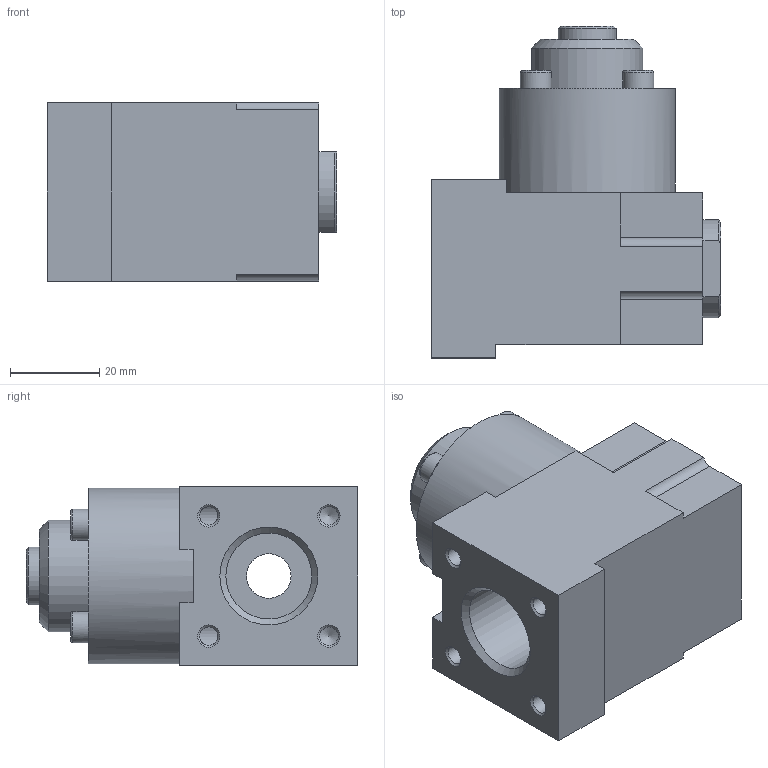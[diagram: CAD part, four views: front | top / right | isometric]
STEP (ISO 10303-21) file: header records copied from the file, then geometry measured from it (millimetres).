
FILE_DESCRIPTION( ( 'STEP AP214' ), ' ' );
FILE_NAME( 'p:/temp/worker_172/4732_4272/app_64_02016022515305510441181192d056f_000000_00_00_000000/format_1/L1-N02510.stp', '2016-02-25T14:30:56', ( '' ), ( '' ), ' ', 'PARTsolutions', ' ' );
FILE_SCHEMA( ( 'AUTOMOTIVE_DESIGN { 1 0 10303 214 1 1 1 1 }' ) );
Length unit declared in the file: millimetre
Products named in the file (1): _L1-N02510
Bounding box: 65 x 74.5 x 40 mm (x, y, z)
Volume: 108868.9 mm3; surface area: 20685.9 mm2
Topology: 1 solids, 1 shells, 122 faces, 306 edges, 196 vertices
Faces by surface type: plane 68, cylinder 27, cone 23, torus 4
Full cylindrical faces by diameter (mm): 4.134 x8, 7 x4, 8.566 x2, 10 x1, 13 x1, 19.294 x1, 25 x1, 39.5 x1
Entity records: 4376 total; most frequent: CARTESIAN_POINT 675, DIRECTION 558, ORIENTED_EDGE 488, EDGE_CURVE 244, AXIS2_PLACEMENT_3D 197, VERTEX_POINT 186, EDGE_LOOP 182, LINE 164
